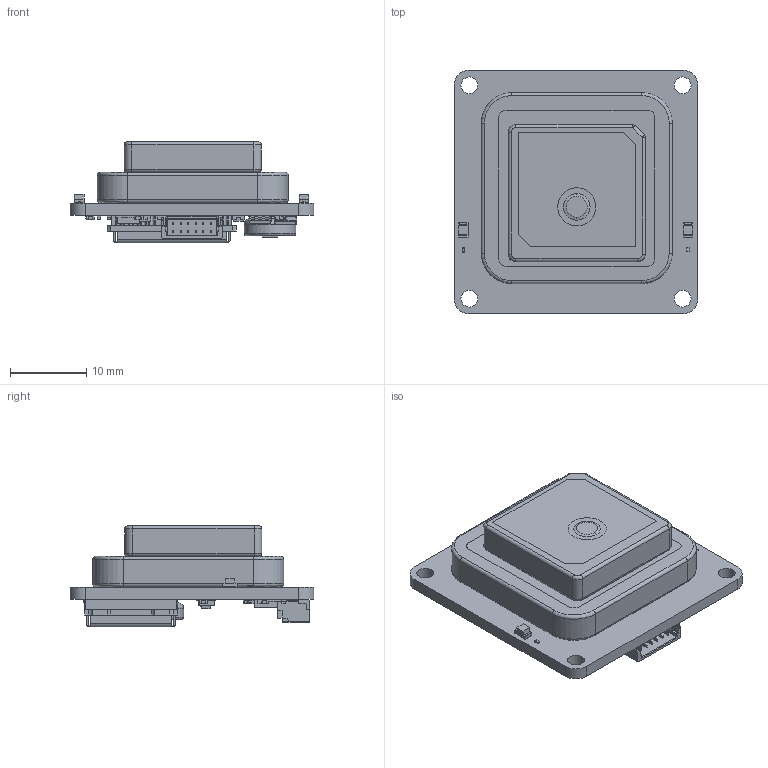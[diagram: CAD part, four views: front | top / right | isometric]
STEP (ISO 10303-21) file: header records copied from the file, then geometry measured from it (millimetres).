
FILE_DESCRIPTION(('KiCad electronic assembly'),'2;1');
FILE_NAME('ORBIT-NANAO-X.step','2026-04-02T11:13:02',('Pcbnew'),('Kicad' ),'Open CASCADE STEP processor 7.8','KiCad to STEP converter', 'Unknown');
FILE_SCHEMA(('AUTOMOTIVE_DESIGN { 1 0 10303 214 1 1 1 1 }'));
Length unit declared in the file: millimetre
Products named in the file (38): ORBIT-NANAO-X 1; LED_0805_2012Metric; R_0201_0603Metric; ANT-GNCP-TH258L15; PMEG6010CEJ,115; SOT323F step; C_0402_1005Metric; LGA-16_3x3mm_P0.5mm; LGA_16_3x3mm_P05mm; TCR3UG18A,LF; WCSP4F; RT9080-33GJ5; ASSEMBLY; TSD1N21C1G19LV0KRT; NEO-F9P-15B; SOT-23; SOT_23; SKY55951-11; ESD7104MUTAG; ESD8104MUTAG; PESD0402-140; IND_1608_TDK; part; MSS1P4-M3_89A; SS1P3L; MS621FE-FL11E; SM06B-SRSS-TB; SM06B-SRSS-TB(LF)(SN); Orbit-NANO-SERIAL_PCB
Assembly tree (58 placements, depth 3):
  ORBIT-NANAO-X 1
    LED_0805_2012Metric  x2
      LED_0805_2012Metric
    R_0201_0603Metric  x5
      R_0201_0603Metric
    ANT-GNCP-TH258L15
      ANT-GNCP-TH258L15
    PMEG6010CEJ,115
      SOT323F step
    C_0402_1005Metric  x16
      C_0402_1005Metric
    LGA-16_3x3mm_P0.5mm
      LGA_16_3x3mm_P05mm
    TCR3UG18A,LF
      WCSP4F
    RT9080-33GJ5
      ASSEMBLY
    TSD1N21C1G19LV0KRT  x2
      ASSEMBLY
    NEO-F9P-15B
      NEO-F9P-15B
    SOT-23
      SOT_23
    SKY55951-11
      SKY55951-11
    ESD7104MUTAG
      ESD8104MUTAG
    PESD0402-140
      PESD0402-140
    IND_1608_TDK
      part
    MSS1P4-M3_89A
      SS1P3L
    MS621FE-FL11E
      MS621FE-FL11E
    SM06B-SRSS-TB
      SM06B-SRSS-TB(LF)(SN)
    Orbit-NANO-SERIAL_PCB
Bounding box: 32 x 32 x 13.36 mm (x, y, z)
Volume: 5965 mm3; surface area: 7745.5 mm2
Topology: 122 solids, 122 shells, 2474 faces, 6291 edges, 4081 vertices
Faces by surface type: plane 1888, cylinder 499, bspline 45, sphere 24, torus 14, cone 4
Full cylindrical faces by diameter (mm): 0.2 x1, 0.35 x1, 1.03 x1, 2.2 x4
Entity records: 61437 total; most frequent: CARTESIAN_POINT 10363, ORIENTED_EDGE 9396, DIRECTION 9005, EDGE_CURVE 4698, LINE 3979, VECTOR 3979, VERTEX_POINT 3043, AXIS2_PLACEMENT_3D 2513
